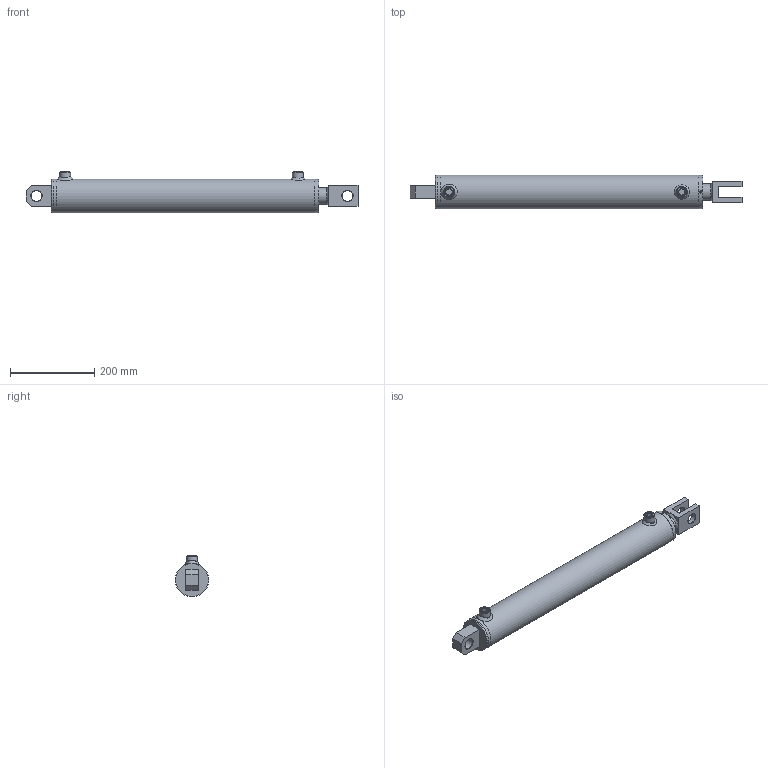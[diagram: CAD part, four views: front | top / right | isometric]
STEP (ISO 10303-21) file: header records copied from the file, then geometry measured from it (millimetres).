
FILE_DESCRIPTION( ( 'Unknown' ), '1' );
FILE_NAME( 'E:/LIBRERIA_3d/CILINDRI/HM5/HM54400500.stp', 'Unknown', ( 'Unknown' ), ( 'Unknown' ), 'PSStep 17.0.49', 'Unknown', ' ' );
FILE_SCHEMA( ( 'AUTOMOTIVE_DESIGN { 1 0 10303 214 1 1 1 1 }' ) );
Length unit declared in the file: millimetre
Products named in the file (24): CG08007040; STL4500500-oa5; Saldatura d'angolo 1-oa3; FTM4500500-oa4; CBSC220600; CT00070027; HM04400500; CF00070080; Saldatura con preparazione 1-oa1; Saldatura d'angolo 1-oa2; CBS0600000; SBL4040500; CDB0002720; APG0600000; Assem1; CFS0000025; COF2500000; Saldatura d'angolo 1-oa0
Assembly tree (18 placements, depth 4):
  Saldatura d'angolo 1-oa3
  Saldatura d'angolo 1-oa3
  Saldatura d'angolo 1-oa2
  Saldatura d'angolo 1-oa2
  Assem1
    CFS0000025
    COF2500000
    HM04400500
      CF00070080
      Saldatura con preparazione 1-oa1
      Saldatura con preparazione 1-oa1
      CBS0600000
      SBL4040500
      CDB0002720
      APG0600000  x2
      CT00070027
        CT00070027
      CG08007040
        CG08007040
      STL4500500-oa5
        FTM4500500-oa4
        CBSC220600
Bounding box: 790 x 80 x 99 mm (x, y, z)
Volume: 1988964.5 mm3; surface area: 509873.5 mm2
Topology: 20 solids, 20 shells, 235 faces, 494 edges, 310 vertices
Faces by surface type: plane 78, cylinder 64, cone 44, torus 37, bspline 12
Full cylindrical faces by diameter (mm): 4.25 x3, 5 x2, 6 x2, 7 x2, 14.95 x2, 16 x2, 16.6 x2, 22 x2, 25.25 x3, 26 x2, 26.4 x1, 27 x5, 33.2 x1, 35 x2, 40 x4, 41 x1, 42 x1, 43 x1, 48.6 x1, 50 x2, 64.18 x2, 65 x1, 68.34 x2, 69.9 x1, 70 x1, 70.3 x1, 70.5 x1, 70.6 x1, 71 x1, 72 x3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
Entity records: 10494 total; most frequent: CARTESIAN_POINT 4432, DIRECTION 924, ORIENTED_EDGE 550, AXIS2_PLACEMENT_3D 428, EDGE_LOOP 420, FACE_OUTER_BOUND 330, EDGE_CURVE 275, VERTEX_POINT 252
